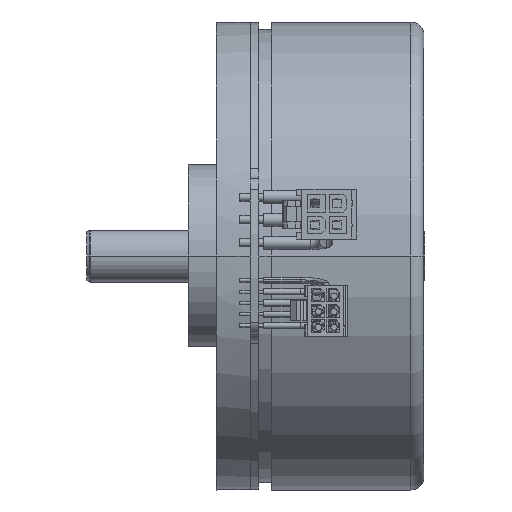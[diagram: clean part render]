
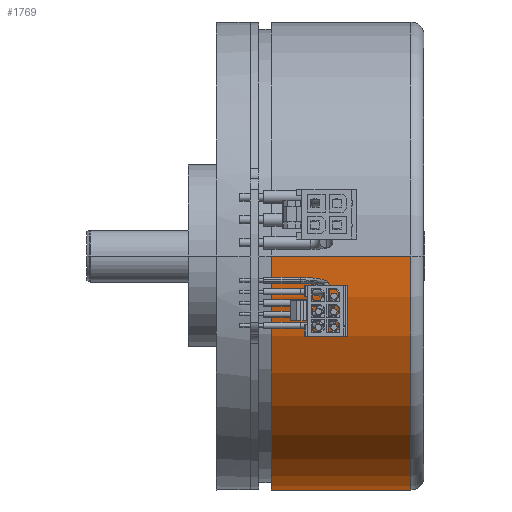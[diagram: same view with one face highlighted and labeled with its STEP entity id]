
A CAD part, front view. The second image highlights one B-rep face of the part: STEP entity #1769.
In plain terms, the highlighted cylindrical face has radius 45 mm (diameter 90 mm), a partial arc.
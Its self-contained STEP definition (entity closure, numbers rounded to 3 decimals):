
#145=DIRECTION('',(1.,0.,0.));
#146=VECTOR('',#145,26.85);
#147=CARTESIAN_POINT('',(10.55,45.,0.));
#148=LINE('',#147,#146);
#152=DIRECTION('',(-1.,0.,0.));
#153=VECTOR('',#152,26.85);
#154=CARTESIAN_POINT('',(37.4,-45.,0.));
#155=LINE('',#154,#153);
#159=CARTESIAN_POINT('',(37.4,0.,0.));
#160=DIRECTION('',(-1.,0.,0.));
#161=DIRECTION('',(0.,1.,0.));
#162=AXIS2_PLACEMENT_3D('',#159,#160,#161);
#175=CARTESIAN_POINT('',(10.55,0.,0.));
#176=DIRECTION('',(-1.,0.,0.));
#177=DIRECTION('',(0.,1.,0.));
#178=AXIS2_PLACEMENT_3D('',#175,#176,#177);
#1451=CARTESIAN_POINT('',(10.55,45.,0.));
#1452=CARTESIAN_POINT('',(37.4,45.,0.));
#1453=VERTEX_POINT('',#1451);
#1454=VERTEX_POINT('',#1452);
#1463=CARTESIAN_POINT('',(37.4,-45.,0.));
#1464=CARTESIAN_POINT('',(10.55,-45.,0.));
#1465=VERTEX_POINT('',#1463);
#1466=VERTEX_POINT('',#1464);
#1757=CARTESIAN_POINT('',(-120.991,0.,0.));
#1758=DIRECTION('',(1.,0.,0.));
#1759=DIRECTION('',(0.,-1.,0.));
#1760=AXIS2_PLACEMENT_3D('',#1757,#1758,#1759);
#1761=CYLINDRICAL_SURFACE('',#1760,45.);
#1762=ORIENTED_EDGE('',*,*,#1747,.F.);
#1764=ORIENTED_EDGE('',*,*,#1763,.T.);
#1765=ORIENTED_EDGE('',*,*,#1750,.F.);
#1766=ORIENTED_EDGE('',*,*,#1721,.F.);
#1767=EDGE_LOOP('',(#1762,#1764,#1765,#1766));
#1768=FACE_OUTER_BOUND('',#1767,.F.);
#1769=ADVANCED_FACE('',(#1768),#1761,.T.);
#163=CIRCLE('',#162,45.);
#179=CIRCLE('',#178,45.);
#1721=EDGE_CURVE('',#1454,#1465,#163,.T.);
#1747=EDGE_CURVE('',#1453,#1454,#148,.T.);
#1750=EDGE_CURVE('',#1465,#1466,#155,.T.);
#1763=EDGE_CURVE('',#1453,#1466,#179,.T.);
